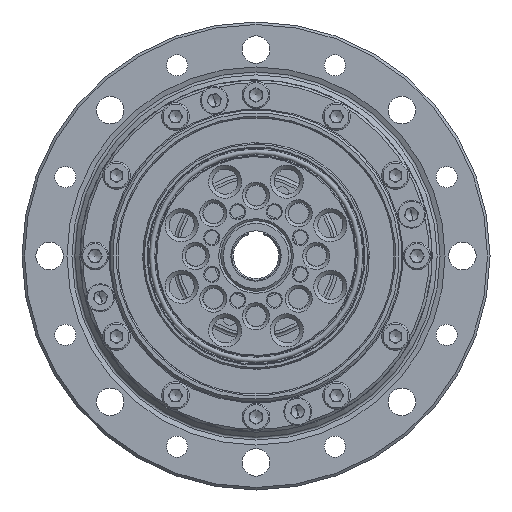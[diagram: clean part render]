
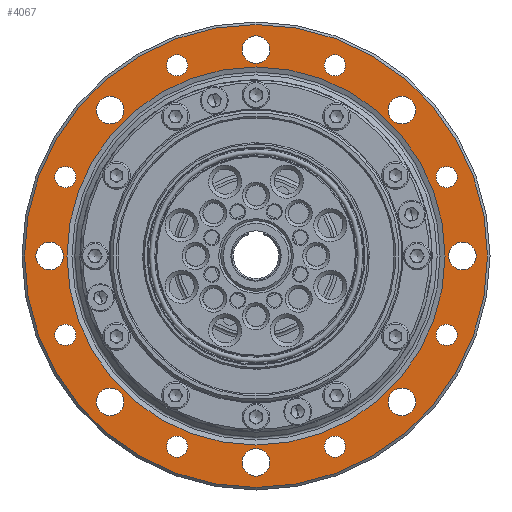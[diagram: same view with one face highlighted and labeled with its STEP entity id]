
A CAD part, left-side view. The second image highlights one B-rep face of the part: STEP entity #4067.
In plain terms, the highlighted planar face has unit normal (-1, 0, 0).
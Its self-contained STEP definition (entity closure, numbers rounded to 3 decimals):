
#4067=ADVANCED_FACE('',(#6131,#6132,#6133,#6134,#6135,#6136,#6137,#6138,
#6139,#6140,#6141,#6142,#6143,#6144,#6145,#6146,#6147,#6148),#5454,.T.);
#5454=PLANE('',#20408);
#6131=FACE_BOUND('',#7912,.T.);
#6132=FACE_BOUND('',#7913,.T.);
#6133=FACE_BOUND('',#7914,.T.);
#6134=FACE_BOUND('',#7915,.T.);
#6135=FACE_BOUND('',#7916,.T.);
#6136=FACE_BOUND('',#7917,.T.);
#6137=FACE_BOUND('',#7918,.T.);
#6138=FACE_BOUND('',#7919,.T.);
#6139=FACE_BOUND('',#7920,.T.);
#6140=FACE_BOUND('',#7921,.T.);
#6141=FACE_BOUND('',#7922,.T.);
#6142=FACE_BOUND('',#7923,.T.);
#6143=FACE_BOUND('',#7924,.T.);
#6144=FACE_BOUND('',#7925,.T.);
#6145=FACE_BOUND('',#7926,.T.);
#6146=FACE_BOUND('',#7927,.T.);
#6147=FACE_BOUND('',#7928,.T.);
#6148=FACE_BOUND('',#7929,.T.);
#7912=EDGE_LOOP('',(#10255));
#7913=EDGE_LOOP('',(#10256));
#7914=EDGE_LOOP('',(#10257));
#7915=EDGE_LOOP('',(#10258));
#7916=EDGE_LOOP('',(#10259));
#7917=EDGE_LOOP('',(#10260));
#7918=EDGE_LOOP('',(#10261));
#7919=EDGE_LOOP('',(#10262));
#7920=EDGE_LOOP('',(#10263));
#7921=EDGE_LOOP('',(#10264));
#7922=EDGE_LOOP('',(#10265));
#7923=EDGE_LOOP('',(#10266));
#7924=EDGE_LOOP('',(#10267));
#7925=EDGE_LOOP('',(#10268));
#7926=EDGE_LOOP('',(#10269));
#7927=EDGE_LOOP('',(#10270));
#7928=EDGE_LOOP('',(#10271));
#7929=EDGE_LOOP('',(#10272));
#10255=ORIENTED_EDGE('',*,*,#16427,.T.);
#10256=ORIENTED_EDGE('',*,*,#16428,.T.);
#10257=ORIENTED_EDGE('',*,*,#16429,.T.);
#10258=ORIENTED_EDGE('',*,*,#16430,.T.);
#10259=ORIENTED_EDGE('',*,*,#16431,.T.);
#10260=ORIENTED_EDGE('',*,*,#16432,.T.);
#10261=ORIENTED_EDGE('',*,*,#16433,.T.);
#10262=ORIENTED_EDGE('',*,*,#16434,.T.);
#10263=ORIENTED_EDGE('',*,*,#16435,.T.);
#10264=ORIENTED_EDGE('',*,*,#16436,.T.);
#10265=ORIENTED_EDGE('',*,*,#16437,.T.);
#10266=ORIENTED_EDGE('',*,*,#16438,.T.);
#10267=ORIENTED_EDGE('',*,*,#16439,.T.);
#10268=ORIENTED_EDGE('',*,*,#16440,.T.);
#10269=ORIENTED_EDGE('',*,*,#16441,.T.);
#10270=ORIENTED_EDGE('',*,*,#16442,.T.);
#10271=ORIENTED_EDGE('',*,*,#16443,.T.);
#10272=ORIENTED_EDGE('',*,*,#16426,.F.);
#14644=VERTEX_POINT('',#29277);
#14645=VERTEX_POINT('',#29280);
#14646=VERTEX_POINT('',#29282);
#14647=VERTEX_POINT('',#29284);
#14648=VERTEX_POINT('',#29286);
#14649=VERTEX_POINT('',#29288);
#14650=VERTEX_POINT('',#29290);
#14651=VERTEX_POINT('',#29292);
#14652=VERTEX_POINT('',#29294);
#14653=VERTEX_POINT('',#29296);
#14654=VERTEX_POINT('',#29298);
#14655=VERTEX_POINT('',#29300);
#14656=VERTEX_POINT('',#29302);
#14657=VERTEX_POINT('',#29304);
#14658=VERTEX_POINT('',#29306);
#14659=VERTEX_POINT('',#29308);
#14660=VERTEX_POINT('',#29310);
#14661=VERTEX_POINT('',#29312);
#16426=EDGE_CURVE('',#14644,#14644,#18752,.T.);
#16427=EDGE_CURVE('',#14645,#14645,#18753,.T.);
#16428=EDGE_CURVE('',#14646,#14646,#18754,.T.);
#16429=EDGE_CURVE('',#14647,#14647,#18755,.T.);
#16430=EDGE_CURVE('',#14648,#14648,#18756,.T.);
#16431=EDGE_CURVE('',#14649,#14649,#18757,.T.);
#16432=EDGE_CURVE('',#14650,#14650,#18758,.T.);
#16433=EDGE_CURVE('',#14651,#14651,#18759,.T.);
#16434=EDGE_CURVE('',#14652,#14652,#18760,.T.);
#16435=EDGE_CURVE('',#14653,#14653,#18761,.T.);
#16436=EDGE_CURVE('',#14654,#14654,#18762,.T.);
#16437=EDGE_CURVE('',#14655,#14655,#18763,.T.);
#16438=EDGE_CURVE('',#14656,#14656,#18764,.T.);
#16439=EDGE_CURVE('',#14657,#14657,#18765,.T.);
#16440=EDGE_CURVE('',#14658,#14658,#18766,.T.);
#16441=EDGE_CURVE('',#14659,#14659,#18767,.T.);
#16442=EDGE_CURVE('',#14660,#14660,#18768,.T.);
#16443=EDGE_CURVE('',#14661,#14661,#18769,.T.);
#18752=CIRCLE('',#20389,37.561);
#18753=CIRCLE('',#20391,2.1);
#18754=CIRCLE('',#20392,2.1);
#18755=CIRCLE('',#20393,2.1);
#18756=CIRCLE('',#20394,2.1);
#18757=CIRCLE('',#20395,2.1);
#18758=CIRCLE('',#20396,2.1);
#18759=CIRCLE('',#20397,2.1);
#18760=CIRCLE('',#20398,2.1);
#18761=CIRCLE('',#20399,2.75);
#18762=CIRCLE('',#20400,2.75);
#18763=CIRCLE('',#20401,2.75);
#18764=CIRCLE('',#20402,2.75);
#18765=CIRCLE('',#20403,2.75);
#18766=CIRCLE('',#20404,2.75);
#18767=CIRCLE('',#20405,2.75);
#18768=CIRCLE('',#20406,2.75);
#18769=CIRCLE('',#20407,46.);
#20389=AXIS2_PLACEMENT_3D('',#29276,#23238,#23239);
#20391=AXIS2_PLACEMENT_3D('',#29279,#23242,#23243);
#20392=AXIS2_PLACEMENT_3D('',#29281,#23244,#23245);
#20393=AXIS2_PLACEMENT_3D('',#29283,#23246,#23247);
#20394=AXIS2_PLACEMENT_3D('',#29285,#23248,#23249);
#20395=AXIS2_PLACEMENT_3D('',#29287,#23250,#23251);
#20396=AXIS2_PLACEMENT_3D('',#29289,#23252,#23253);
#20397=AXIS2_PLACEMENT_3D('',#29291,#23254,#23255);
#20398=AXIS2_PLACEMENT_3D('',#29293,#23256,#23257);
#20399=AXIS2_PLACEMENT_3D('',#29295,#23258,#23259);
#20400=AXIS2_PLACEMENT_3D('',#29297,#23260,#23261);
#20401=AXIS2_PLACEMENT_3D('',#29299,#23262,#23263);
#20402=AXIS2_PLACEMENT_3D('',#29301,#23264,#23265);
#20403=AXIS2_PLACEMENT_3D('',#29303,#23266,#23267);
#20404=AXIS2_PLACEMENT_3D('',#29305,#23268,#23269);
#20405=AXIS2_PLACEMENT_3D('',#29307,#23270,#23271);
#20406=AXIS2_PLACEMENT_3D('',#29309,#23272,#23273);
#20407=AXIS2_PLACEMENT_3D('',#29311,#23274,#23275);
#20408=AXIS2_PLACEMENT_3D('',#29313,#23276,#23277);
#23238=DIRECTION('',(-1.,0.,0.));
#23239=DIRECTION('',(0.,0.,1.));
#23242=DIRECTION('',(1.,0.,0.));
#23243=DIRECTION('',(0.,0.,-1.));
#23244=DIRECTION('',(1.,0.,0.));
#23245=DIRECTION('',(0.,0.,-1.));
#23246=DIRECTION('',(1.,0.,0.));
#23247=DIRECTION('',(0.,0.,-1.));
#23248=DIRECTION('',(1.,0.,0.));
#23249=DIRECTION('',(0.,0.,-1.));
#23250=DIRECTION('',(1.,0.,0.));
#23251=DIRECTION('',(0.,0.,-1.));
#23252=DIRECTION('',(1.,0.,0.));
#23253=DIRECTION('',(0.,0.,-1.));
#23254=DIRECTION('',(1.,0.,0.));
#23255=DIRECTION('',(0.,0.,-1.));
#23256=DIRECTION('',(1.,0.,0.));
#23257=DIRECTION('',(0.,0.,-1.));
#23258=DIRECTION('',(1.,0.,0.));
#23259=DIRECTION('',(0.,0.,-1.));
#23260=DIRECTION('',(1.,0.,0.));
#23261=DIRECTION('',(0.,0.,-1.));
#23262=DIRECTION('',(1.,0.,0.));
#23263=DIRECTION('',(0.,0.,-1.));
#23264=DIRECTION('',(1.,0.,0.));
#23265=DIRECTION('',(0.,0.,-1.));
#23266=DIRECTION('',(1.,0.,0.));
#23267=DIRECTION('',(0.,0.,-1.));
#23268=DIRECTION('',(1.,0.,0.));
#23269=DIRECTION('',(0.,0.,-1.));
#23270=DIRECTION('',(1.,0.,0.));
#23271=DIRECTION('',(0.,0.,-1.));
#23272=DIRECTION('',(1.,0.,0.));
#23273=DIRECTION('',(0.,0.,-1.));
#23274=DIRECTION('',(-1.,0.,0.));
#23275=DIRECTION('',(0.,0.,1.));
#23276=DIRECTION('',(-1.,0.,0.));
#23277=DIRECTION('',(0.,0.,1.));
#29276=CARTESIAN_POINT('',(-10.,0.,0.));
#29277=CARTESIAN_POINT('',(-10.,0.,37.561));
#29279=CARTESIAN_POINT('',(-10.,15.69,37.879));
#29280=CARTESIAN_POINT('',(-10.,15.69,35.779));
#29281=CARTESIAN_POINT('',(-10.,37.879,15.69));
#29282=CARTESIAN_POINT('',(-10.,37.879,13.59));
#29283=CARTESIAN_POINT('',(-10.,37.879,-15.69));
#29284=CARTESIAN_POINT('',(-10.,37.879,-17.79));
#29285=CARTESIAN_POINT('',(-10.,15.69,-37.879));
#29286=CARTESIAN_POINT('',(-10.,15.69,-39.979));
#29287=CARTESIAN_POINT('',(-10.,-15.69,-37.879));
#29288=CARTESIAN_POINT('',(-10.,-15.69,-39.979));
#29289=CARTESIAN_POINT('',(-10.,-37.879,-15.69));
#29290=CARTESIAN_POINT('',(-10.,-37.879,-17.79));
#29291=CARTESIAN_POINT('',(-10.,-37.879,15.69));
#29292=CARTESIAN_POINT('',(-10.,-37.879,13.59));
#29293=CARTESIAN_POINT('',(-10.,-15.69,37.879));
#29294=CARTESIAN_POINT('',(-10.,-15.69,35.779));
#29295=CARTESIAN_POINT('',(-10.,28.991,28.991));
#29296=CARTESIAN_POINT('',(-10.,28.991,26.241));
#29297=CARTESIAN_POINT('',(-10.,41.,0.));
#29298=CARTESIAN_POINT('',(-10.,41.,-2.75));
#29299=CARTESIAN_POINT('',(-10.,28.991,-28.991));
#29300=CARTESIAN_POINT('',(-10.,28.991,-31.741));
#29301=CARTESIAN_POINT('',(-10.,0.,-41.));
#29302=CARTESIAN_POINT('',(-10.,0.,-43.75));
#29303=CARTESIAN_POINT('',(-10.,-28.991,-28.991));
#29304=CARTESIAN_POINT('',(-10.,-28.991,-31.741));
#29305=CARTESIAN_POINT('',(-10.,-41.,0.));
#29306=CARTESIAN_POINT('',(-10.,-41.,-2.75));
#29307=CARTESIAN_POINT('',(-10.,-28.991,28.991));
#29308=CARTESIAN_POINT('',(-10.,-28.991,26.241));
#29309=CARTESIAN_POINT('',(-10.,0.,41.));
#29310=CARTESIAN_POINT('',(-10.,0.,38.25));
#29311=CARTESIAN_POINT('',(-10.,0.,0.));
#29312=CARTESIAN_POINT('',(-10.,0.,46.));
#29313=CARTESIAN_POINT('',(-10.,0.,37.561));
